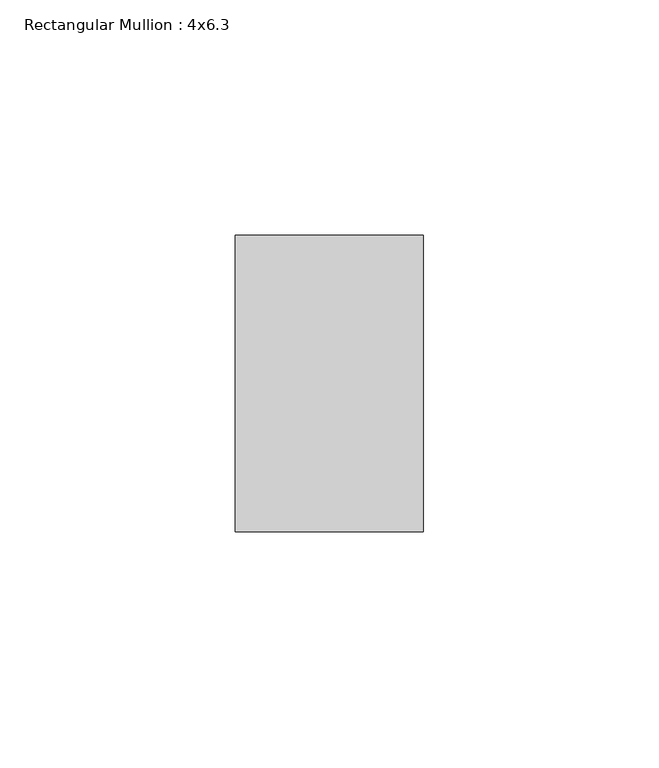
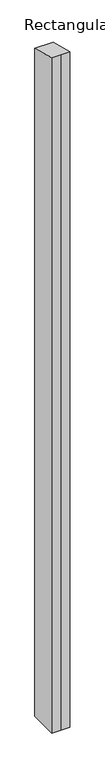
"""IFC4 building model written with IfcOpenShell, lengths in millimetres: member geometry, Rectangular Mullion : 4x6.3."""

from ifc_helpers import new_model, si_unit, origin, place, context, project, spatial, faceted_brep, source, transform, mapped, element, save


def rectangular_mullion_4x6_3_f9be1136(model_context):
    return source(origin(), model_context, "Body", "Brep", [
        faceted_brep([(-20.0, 20.0, -1560.7925299), (-20.0, 83.0, -1560.7925299), (20.0, 83.0, -1560.7925299), (20.0, 20.0, -1560.7925299), (0.0, 20.0, -1560.7925299), (0.0, 20.0, -5.4283368), (-20.0, 20.0, -5.4283368), (20.0, 20.0, -5.4283368), (20.0, 83.0, -22.5275978), (-20.0, 83.0, -22.5275978)], [[[0, 1, 2, 3, 4]], [[5, 6, 0, 4]], [[7, 5, 4, 3]], [[8, 7, 3, 2]], [[9, 8, 2, 1]], [[6, 9, 1, 0]], [[6, 5, 7, 8, 9]]]),
    ])


if __name__ == "__main__":
    model = new_model("IFC4")
    model_context = context("Model", 3, world=origin())
    ifc_project = project(units=[si_unit("LENGTHUNIT", "METRE", prefix="MILLI")], contexts=[model_context])
    site = spatial("IfcSite", under=ifc_project)
    building = spatial("IfcBuilding", under=site)
    placement = place(None, origin())
    rectangular_mullion_4x6_3_shape = rectangular_mullion_4x6_3_f9be1136(model_context)
    element("IfcMember", 1, ObjectType="Rectangular Mullion : 4x6.3", at=placement, inside=building, context=model_context, shape_type="MappedRepresentation", body=[
        mapped(rectangular_mullion_4x6_3_shape, transform((0.0, 0.0, 0.0), x_axis=(1.0, 0.0, 0.0), y_axis=(0.0, 1.0, 0.0), z_axis=(0.0, 0.0, 1.0))),
    ])
    save(model, "model.ifc")
